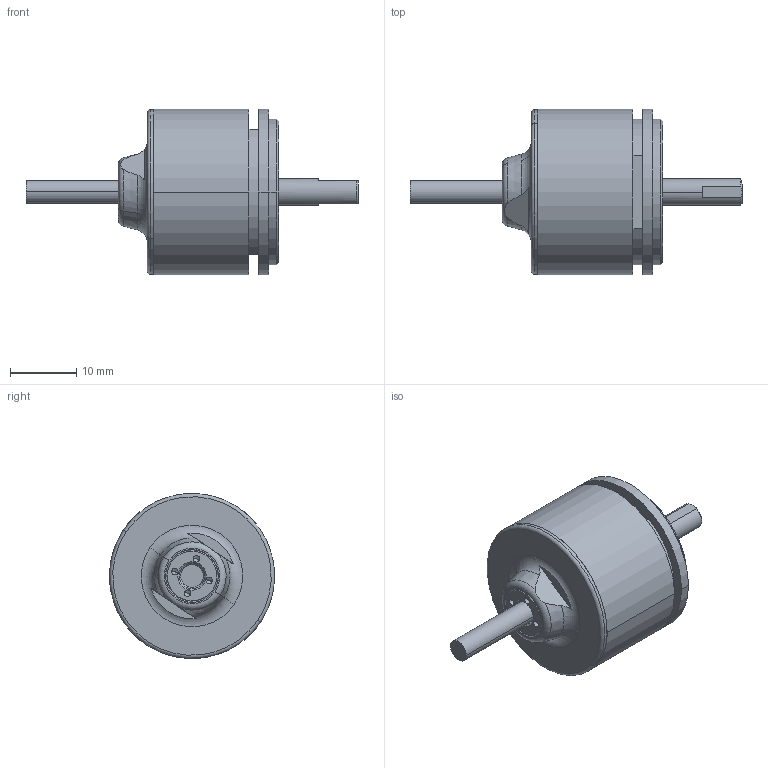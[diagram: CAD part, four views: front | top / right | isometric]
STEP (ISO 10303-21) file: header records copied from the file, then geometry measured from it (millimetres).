
FILE_DESCRIPTION (( 'STEP AP214' ), '1' );
FILE_NAME ('DL-25.STEP', '2025-03-24T11:14:46', ( '' ), ( '' ), 'SwSTEP 2.0', 'SolidWorks 2022', '' );
FILE_SCHEMA (( 'AUTOMOTIVE_DESIGN' ));
Length unit declared in the file: millimetre
Products named in the file (14): MP-01029; DL-25-QR Shaft unit_Envelope; MP-03405-02; MP-03662; MP-03207-00; DL-25; MP-03211-00; MP-03208-00; DL-25-QR Cable; MP-03733; MP-03661_Mass production; MP-03210; MP-03213-00; MP-03206-00
Assembly tree (14 placements, depth 4):
  DL-25
    MP-03661_Mass production
    MP-03405-02
    MP-03213-00
    MP-03206-00
    MP-03211-00
    MP-03207-00
    DL-25-QR Cable
    DL-25-QR Shaft unit_Envelope
      MP-01029
        MP-03210  x2
      MP-03662
    MP-03733
    MP-03208-00
Bounding box: 50.25 x 25 x 25 mm (x, y, z)
Volume: 5695.2 mm3; surface area: 8408.7 mm2
Topology: 59 solids, 59 shells, 689 faces, 1567 edges, 950 vertices
Faces by surface type: cylinder 263, plane 126, torus 114, cone 111, sphere 56, bspline 19
Entity records: 22224 total; most frequent: CARTESIAN_POINT 6878, DIRECTION 3008, ORIENTED_EDGE 2484, AXIS2_PLACEMENT_3D 1315, EDGE_CURVE 1242, VERTEX_POINT 761, CIRCLE 718, EDGE_LOOP 657
